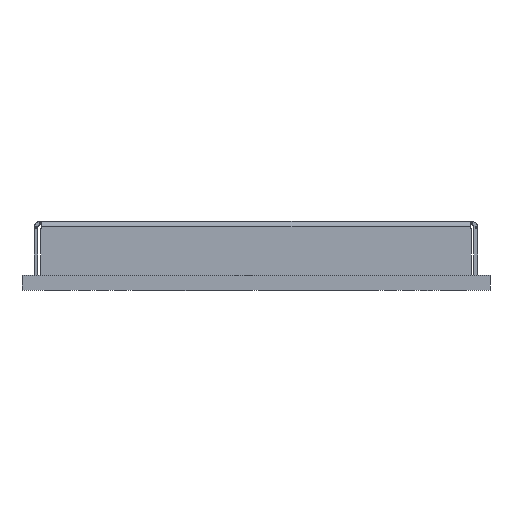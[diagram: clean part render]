
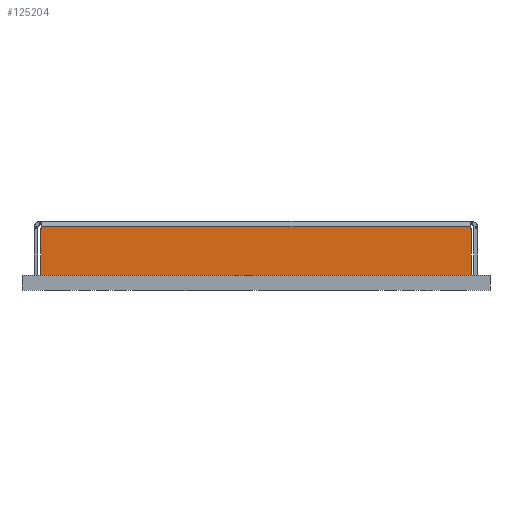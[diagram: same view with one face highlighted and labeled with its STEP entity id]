
A CAD part, front view. The second image highlights one B-rep face of the part: STEP entity #125204.
In plain terms, the highlighted planar face has unit normal (0, -1, 0).
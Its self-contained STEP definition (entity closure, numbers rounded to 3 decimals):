
#7031 = DIRECTION ( 'NONE',  ( 1., 0., 0. ) ) ;
#16307 = AXIS2_PLACEMENT_3D ( 'NONE', #52749, #281643, #30343 ) ;
#17107 = ORIENTED_EDGE ( 'NONE', *, *, #93495, .T. ) ;
#17222 = EDGE_CURVE ( 'NONE', #127488, #115492, #228331, .T. ) ;
#22292 = CARTESIAN_POINT ( 'NONE',  ( 12.478, 0.355, 1.325 ) ) ;
#23416 = DIRECTION ( 'NONE',  ( 1., 0., 0. ) ) ;
#25705 = CARTESIAN_POINT ( 'NONE',  ( 0.343, 0.355, 1.3 ) ) ;
#26512 = VECTOR ( 'NONE', #199079, 1000. ) ;
#27127 = LINE ( 'NONE', #25705, #224154 ) ;
#27868 = VECTOR ( 'NONE', #268056, 1000. ) ;
#30343 = DIRECTION ( 'NONE',  ( 0., 0., 1. ) ) ;
#33997 = CARTESIAN_POINT ( 'NONE',  ( 12.453, 0.355, 1.325 ) ) ;
#37409 = AXIS2_PLACEMENT_3D ( 'NONE', #22292, #200467, #113512 ) ;
#39638 = EDGE_CURVE ( 'NONE', #259389, #261801, #27127, .T. ) ;
#43623 = LINE ( 'NONE', #157391, #27868 ) ;
#48425 = PLANE ( 'NONE',  #151543 ) ;
#49043 = LINE ( 'NONE', #228603, #122247 ) ;
#52749 = CARTESIAN_POINT ( 'NONE',  ( 0.518, 0.355, 1.325 ) ) ;
#54888 = CARTESIAN_POINT ( 'NONE',  ( 12.453, 0.355, 1.35 ) ) ;
#60201 = LINE ( 'NONE', #155985, #227500 ) ;
#62409 = CARTESIAN_POINT ( 'NONE',  ( 0.343, 0.355, 1.3 ) ) ;
#63574 = ORIENTED_EDGE ( 'NONE', *, *, #221427, .T. ) ;
#70529 = ORIENTED_EDGE ( 'NONE', *, *, #198925, .T. ) ;
#72290 = VERTEX_POINT ( 'NONE', #216587 ) ;
#74140 = LINE ( 'NONE', #165517, #160568 ) ;
#78438 = VECTOR ( 'NONE', #7031, 1000. ) ;
#88788 = ORIENTED_EDGE ( 'NONE', *, *, #39638, .T. ) ;
#93495 = EDGE_CURVE ( 'NONE', #127488, #247473, #195067, .T. ) ;
#113512 = DIRECTION ( 'NONE',  ( 0., 0., 1. ) ) ;
#115492 = VERTEX_POINT ( 'NONE', #290885 ) ;
#115876 = VERTEX_POINT ( 'NONE', #165912 ) ;
#121968 = CARTESIAN_POINT ( 'NONE',  ( 0.543, 0.355, 1.325 ) ) ;
#122247 = VECTOR ( 'NONE', #231518, 1000. ) ;
#122271 = EDGE_LOOP ( 'NONE', ( #192407, #63574, #286791, #224659, #88788, #70529, #268896, #172196, #259686, #17107 ) ) ;
#125204 = ADVANCED_FACE ( 'NONE', ( #208471 ), #48425, .F. ) ;
#127488 = VERTEX_POINT ( 'NONE', #287031 ) ;
#128783 = LINE ( 'NONE', #131708, #26512 ) ;
#131708 = CARTESIAN_POINT ( 'NONE',  ( 0.514, 0.355, 1.5 ) ) ;
#150767 = VECTOR ( 'NONE', #23416, 1000. ) ;
#151543 = AXIS2_PLACEMENT_3D ( 'NONE', #248974, #272930, #293856 ) ;
#153245 = CARTESIAN_POINT ( 'NONE',  ( 0.514, 0.355, 1.3 ) ) ;
#155985 = CARTESIAN_POINT ( 'NONE',  ( 0.543, 0.355, 1.35 ) ) ;
#157391 = CARTESIAN_POINT ( 'NONE',  ( 0.543, 0.355, 1.5 ) ) ;
#160568 = VECTOR ( 'NONE', #256705, 1000. ) ;
#165517 = CARTESIAN_POINT ( 'NONE',  ( 12.453, 0.355, 1.5 ) ) ;
#165912 = CARTESIAN_POINT ( 'NONE',  ( 0.543, 0.355, 1.35 ) ) ;
#172196 = ORIENTED_EDGE ( 'NONE', *, *, #272826, .T. ) ;
#175004 = CARTESIAN_POINT ( 'NONE',  ( 0.518, 0.355, 1.3 ) ) ;
#177361 = VERTEX_POINT ( 'NONE', #121968 ) ;
#189616 = CARTESIAN_POINT ( 'NONE',  ( 0.343, 0.355, 0. ) ) ;
#192407 = ORIENTED_EDGE ( 'NONE', *, *, #220852, .T. ) ;
#195067 = CIRCLE ( 'NONE', #37409, 0.025 ) ;
#198925 = EDGE_CURVE ( 'NONE', #261801, #72290, #128783, .T. ) ;
#199079 = DIRECTION ( 'NONE',  ( 0., 0., -1. ) ) ;
#200467 = DIRECTION ( 'NONE',  ( 0., 1., 0. ) ) ;
#203421 = VERTEX_POINT ( 'NONE', #54888 ) ;
#208471 = FACE_OUTER_BOUND ( 'NONE', #122271, .T. ) ;
#216587 = CARTESIAN_POINT ( 'NONE',  ( 0.514, 0.355, 0. ) ) ;
#220852 = EDGE_CURVE ( 'NONE', #247473, #203421, #74140, .T. ) ;
#221427 = EDGE_CURVE ( 'NONE', #203421, #115876, #60201, .T. ) ;
#224154 = VECTOR ( 'NONE', #276969, 1000. ) ;
#224659 = ORIENTED_EDGE ( 'NONE', *, *, #260268, .T. ) ;
#227500 = VECTOR ( 'NONE', #241245, 1000. ) ;
#228331 = LINE ( 'NONE', #62409, #150767 ) ;
#228603 = CARTESIAN_POINT ( 'NONE',  ( 12.482, 0.355, 1.5 ) ) ;
#231518 = DIRECTION ( 'NONE',  ( 0., 0., 1. ) ) ;
#241245 = DIRECTION ( 'NONE',  ( -1., 0., 0. ) ) ;
#247473 = VERTEX_POINT ( 'NONE', #33997 ) ;
#248974 = CARTESIAN_POINT ( 'NONE',  ( 0.343, 0.355, 1.5 ) ) ;
#252209 = VERTEX_POINT ( 'NONE', #252925 ) ;
#252925 = CARTESIAN_POINT ( 'NONE',  ( 12.482, 0.355, 0. ) ) ;
#256705 = DIRECTION ( 'NONE',  ( 0., 0., 1. ) ) ;
#259389 = VERTEX_POINT ( 'NONE', #175004 ) ;
#259686 = ORIENTED_EDGE ( 'NONE', *, *, #17222, .F. ) ;
#260268 = EDGE_CURVE ( 'NONE', #177361, #259389, #274370, .T. ) ;
#261337 = LINE ( 'NONE', #189616, #78438 ) ;
#261801 = VERTEX_POINT ( 'NONE', #153245 ) ;
#264703 = EDGE_CURVE ( 'NONE', #115876, #177361, #43623, .T. ) ;
#268056 = DIRECTION ( 'NONE',  ( 0., 0., -1. ) ) ;
#268896 = ORIENTED_EDGE ( 'NONE', *, *, #291871, .T. ) ;
#272826 = EDGE_CURVE ( 'NONE', #252209, #115492, #49043, .T. ) ;
#272930 = DIRECTION ( 'NONE',  ( 0., 1., 0. ) ) ;
#274370 = CIRCLE ( 'NONE', #16307, 0.025 ) ;
#276969 = DIRECTION ( 'NONE',  ( -1., 0., 0. ) ) ;
#281643 = DIRECTION ( 'NONE',  ( 0., 1., 0. ) ) ;
#286791 = ORIENTED_EDGE ( 'NONE', *, *, #264703, .T. ) ;
#287031 = CARTESIAN_POINT ( 'NONE',  ( 12.478, 0.355, 1.3 ) ) ;
#290885 = CARTESIAN_POINT ( 'NONE',  ( 12.482, 0.355, 1.3 ) ) ;
#291871 = EDGE_CURVE ( 'NONE', #72290, #252209, #261337, .T. ) ;
#293856 = DIRECTION ( 'NONE',  ( 0., 0., 1. ) ) ;
